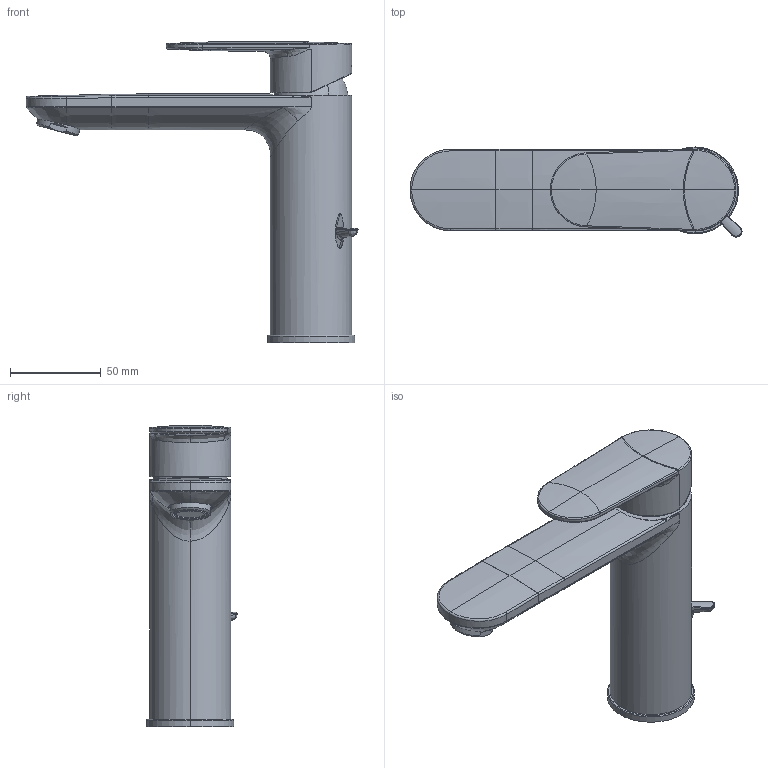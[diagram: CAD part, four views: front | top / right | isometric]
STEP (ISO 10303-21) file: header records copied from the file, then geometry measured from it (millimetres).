
FILE_DESCRIPTION((''),'2;1');
FILE_NAME('MOLA_S140_ASM_ASM','2023-01-25T15:09:02',('LF994'),(''),'CREO PARAMETRIC BY PTC INC, 2022244','CREO PARAMETRIC BY PTC INC, 2022244','');
FILE_SCHEMA(('CONFIG_CONTROL_DESIGN'));
Length unit declared in the file: millimetre
Products named in the file (22): 000_8583_M1007_13; PRT0036_1_1_2; PRT0037_1_1_2; ASM0010_ASM_1_1_2_ASM; PRT0038_1_1_2; ASM0009_ASM_1_1_2_ASM; PRT0039_1_1_2; PRT0040_1_1_2; PRT0041_1_1_2; PRT0046_1_1_2; 00_91132_00001_ASM_10_ASM; 611076_1_1; 507229_GEBOGEN_ASM_1_1_ASM; 611641_1_1_2; 535967_ASM_1_1_2_ASM; 615910_42; MOLA_S140_ASM_23_ASM; 000_8583_M1007_13_1_2_3_4; PRT0034_2_1_2_3_4; PRT0035_1_1_2_3_4; ASM0008_ASM_2_1_2_3_4_ASM; MOLA_S140_ASM_ASM
Assembly tree (21 placements, depth 6):
  MOLA_S140_ASM_ASM
    MOLA_S140_ASM_23_ASM
      00_91132_00001_ASM_10_ASM
        000_8583_M1007_13
        ASM0009_ASM_1_1_2_ASM
          ASM0010_ASM_1_1_2_ASM
            PRT0036_1_1_2
            PRT0037_1_1_2
          PRT0038_1_1_2
        PRT0039_1_1_2
        PRT0040_1_1_2
        PRT0041_1_1_2
        PRT0046_1_1_2
      507229_GEBOGEN_ASM_1_1_ASM
        611076_1_1
      611641_1_1_2
      535967_ASM_1_1_2_ASM
      615910_42
    000_8583_M1007_13_1_2_3_4
    ASM0008_ASM_2_1_2_3_4_ASM
      PRT0034_2_1_2_3_4
      PRT0035_1_1_2_3_4
Bounding box: 183.41 x 49.91 x 166.3 mm (x, y, z)
Volume: 208856.2 mm3; surface area: 111668.6 mm2
Topology: 14 solids, 16 shells, 880 faces, 2191 edges, 1335 vertices
Faces by surface type: cylinder 315, bspline 177, plane 175, torus 85, cone 63, sphere 40, extrusion 25
Entity records: 46556 total; most frequent: CARTESIAN_POINT 26628, ORIENTED_EDGE 4282, DIRECTION 3784, EDGE_CURVE 2141, AXIS2_PLACEMENT_3D 1570, VERTEX_POINT 1335, EDGE_LOOP 952, FACE_OUTER_BOUND 880
